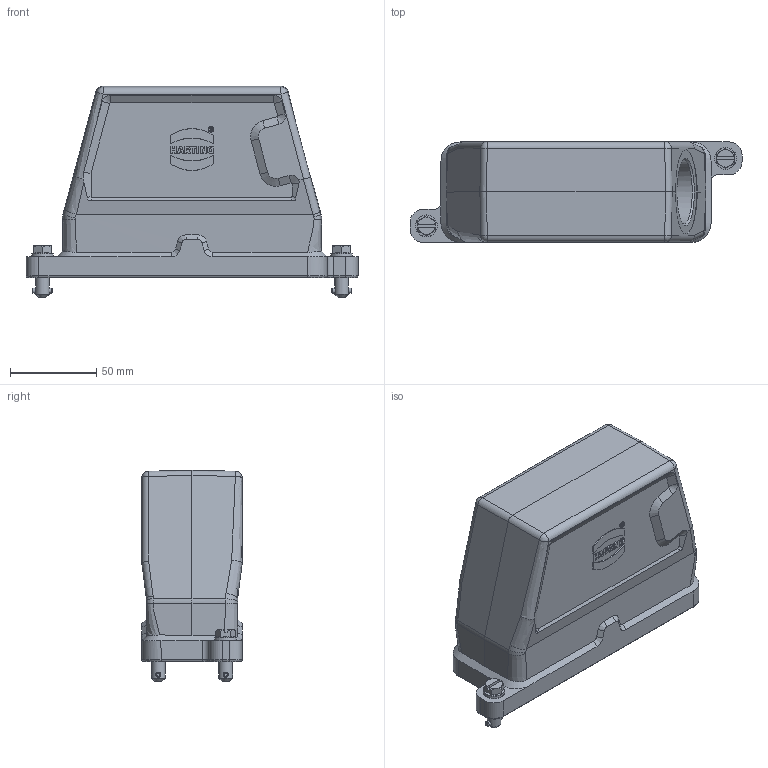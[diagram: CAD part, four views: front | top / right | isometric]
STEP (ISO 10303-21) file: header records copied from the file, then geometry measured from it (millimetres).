
FILE_DESCRIPTION(/* description */ (''),/* implementation_level */ '2;1');
FILE_NAME(/* name */ '100174890ugm000_b.stp',/* time_stamp */ '2022-03-11T15:14:05+01:00',/* author */ (''),/* organization */ (''),/* preprocessor_version */ 'ST-DEVELOPER v16.7',/* originating_system */ 'SIEMENS PLM Software NX 1911',/* authorisation */ '');
FILE_SCHEMA (('AUTOMOTIVE_DESIGN { 1 0 10303 214 3 1 1 1 }'));
Length unit declared in the file: millimetre
Products named in the file (1): 100174890ugm000_b
Bounding box: 192 x 58 x 122.1 mm (x, y, z)
Volume: 250488.6 mm3; surface area: 96655.7 mm2
Topology: 1 solids, 1 shells, 531 faces, 1441 edges, 924 vertices
Faces by surface type: plane 246, cylinder 139, cone 63, bspline 59, torus 20, sphere 4
Full cylindrical faces by diameter (mm): 3 x8, 8 x2, 14.05 x2, 37 x1, 48.6 x1
Entity records: 23102 total; most frequent: CARTESIAN_POINT 6794, ORIENTED_EDGE 2628, DIRECTION 2438, EDGE_CURVE 1314, AXIS2_PLACEMENT_3D 871, VERTEX_POINT 852, LINE 696, VECTOR 696
